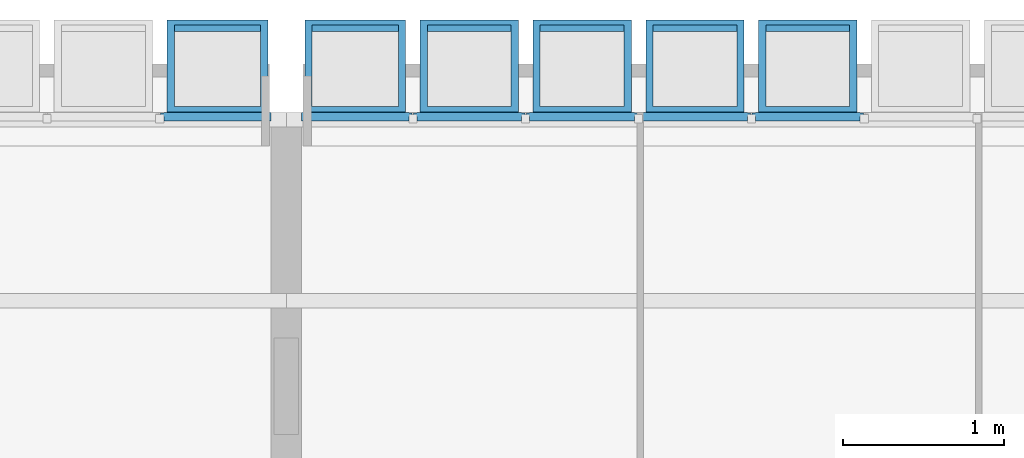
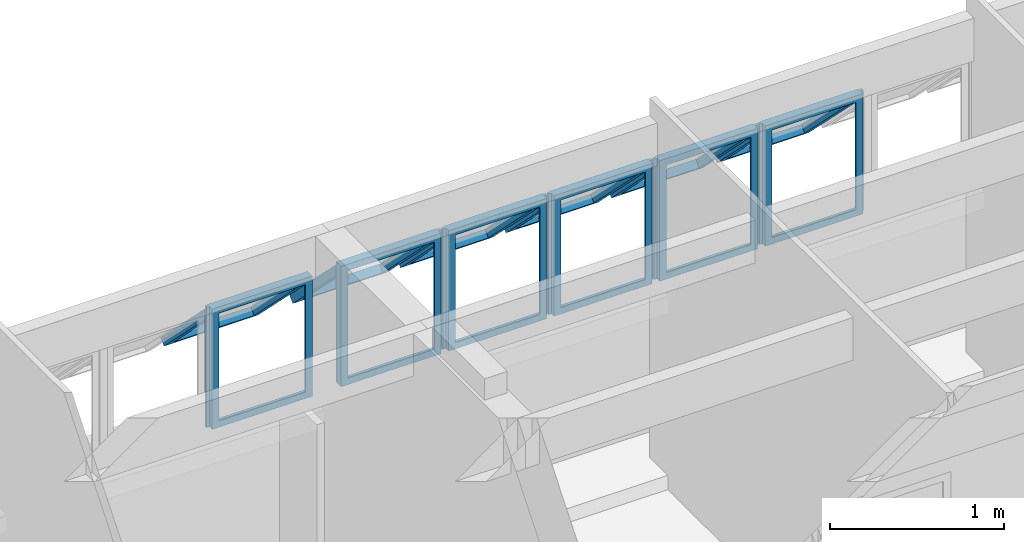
# One storey, part 34 of 38: 6 building element parts, 8 elements without a shape of their own.
"""IFC2X3 building model written with IfcOpenShell, lengths in millimetres."""

from ifc_helpers import new_model, entity, si_unit, converted_unit, derived_unit, money_unit, direction, frame, origin_with_axes, place, context, subcontext, project, spatial, faceted_brep, source, transform, mapped, material, type_object, element, aggregate, save


model = new_model("IFC2X3")

# Units and contexts
model_context = context("Model", 3, precision=0.01, world=origin_with_axes(), true_north=direction((0.0, 1.0)))
body_context = subcontext(model_context, "Body", "Model", "MODEL_VIEW")
ifc_project = project(units=[si_unit("LENGTHUNIT", "METRE", prefix="MILLI"), si_unit("AREAUNIT", "SQUARE_METRE"), si_unit("VOLUMEUNIT", "CUBIC_METRE"), converted_unit("PLANEANGLEUNIT", "DEGREE", entity("IfcPlaneAngleMeasure", 0.0174532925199), si_unit("PLANEANGLEUNIT", "RADIAN"), dimensions=[0, 0, 0, 0, 0, 0, 0]), money_unit("USD"), converted_unit("TIMEUNIT", "Year", entity("IfcTimeMeasure", 31556926.0), si_unit("TIMEUNIT", "SECOND"), dimensions=[0, 0, 1, 0, 0, 0, 0]), si_unit("MASSUNIT", "GRAM", prefix="KILO"), si_unit("THERMODYNAMICTEMPERATUREUNIT", "DEGREE_CELSIUS"), si_unit("LUMINOUSINTENSITYUNIT", "LUMEN"), si_unit("ENERGYUNIT", "JOULE", prefix="MEGA"), derived_unit("THERMALCONDUCTANCEUNIT", [(si_unit("POWERUNIT", "WATT"), 1), (si_unit("LENGTHUNIT", "METRE"), -1), (si_unit("THERMODYNAMICTEMPERATUREUNIT", "KELVIN"), -1)]), derived_unit("SPECIFICHEATCAPACITYUNIT", [(si_unit("ENERGYUNIT", "JOULE"), 1), (si_unit("MASSUNIT", "GRAM", prefix="KILO"), -1), (si_unit("THERMODYNAMICTEMPERATUREUNIT", "KELVIN"), -1)]), derived_unit("MASSDENSITYUNIT", [(si_unit("MASSUNIT", "GRAM", prefix="KILO"), 1), (si_unit("VOLUMEUNIT", "CUBIC_METRE"), -1)])], contexts=[model_context])

# Site, building, storey
site_placement = place(None, origin_with_axes())
site = spatial("IfcSite", under=ifc_project, at=site_placement, Name="Local", CompositionType="ELEMENT")
building_placement = place(site_placement, origin_with_axes())
building = spatial("IfcBuilding", under=site, at=building_placement, Name="Construção", CompositionType="ELEMENT")
storey_placement = place(building_placement, frame((0.0, 0.0, 2650.0), z_axis=(0.0, 0.0, 1.0), x_axis=(1.0, 0.0, 0.0)))
storey = spatial("IfcBuildingStorey", under=building, at=storey_placement, Name="Segundo Pavimento", CompositionType="ELEMENT", Elevation=2650.0)

# Window, plates, building element parts
window_style = type_object("IfcWindowStyle", Name="Tipo de Parede Cortina", ConstructionType="NOTDEFINED", OperationType="NOTDEFINED", ParameterTakesPrecedence=False, Sizeable=False)
window_1_placement = place(storey_placement, frame((8520.0, 25844.9790225, 1355.02054151), z_axis=(0.0, 0.0, 1.0), x_axis=(1.0, 0.0, 0.0)))
window_1 = element("IfcWindow", 1, at=window_1_placement, inside=storey, type_object=window_style, Name="APTO8-JANELA-001")
plate_type_1 = type_object("IfcPlateType", Name="Painel Principal 690 x 845 x 20", PredefinedType="CURTAIN_PANEL")
plate_1_placement = place(window_1_placement, frame((0.0, 0.0, 422.499945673), z_axis=(0.0, 0.0, 1.0), x_axis=(1.0, 0.0, 0.0)))
plate_1 = element("IfcPlate", 2, at=plate_1_placement, type_object=plate_type_1, Name="APTO8-Painel-Prin-030")
ifc_material = material(Name="Alumínio")
shared_shape_1 = source(origin_with_axes(), body_context, "Body", "Brep", [
    faceted_brep([(25.0000036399, 0.0, -40.0), (674.999997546, 0.0, -40.0), (674.999997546, 0.0, -35.0), (25.0000036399, 0.0, -35.0), (70.0000036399, 45.0, -40.0), (629.999997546, 45.0, -40.0), (629.999997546, 45.0, -35.0), (70.0000036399, 45.0, -35.0)], [[[0, 1, 2, 3]], [[0, 4, 5, 1]], [[1, 5, 6, 2]], [[3, 2, 6, 7]], [[4, 0, 3, 7]], [[5, 4, 7, 6]]]),
    faceted_brep([(674.999997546, 0.0, -40.0), (674.999997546, 844.999891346, -40.0), (674.999997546, 844.999891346, -35.0), (674.999997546, 0.0, -35.0), (629.999997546, 45.0, -40.0), (629.999997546, 799.999891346, -40.0), (629.999997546, 799.999891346, -35.0), (629.999997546, 45.0, -35.0)], [[[0, 1, 2, 3]], [[0, 4, 5, 1]], [[1, 5, 6, 2]], [[3, 2, 6, 7]], [[4, 0, 3, 7]], [[5, 4, 7, 6]]]),
    faceted_brep([(25.0000036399, 844.999891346, -40.0), (70.0000036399, 799.999891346, -40.0), (70.0000036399, 799.999891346, -35.0), (25.0000036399, 844.999891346, -35.0), (674.999997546, 844.999891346, -40.0), (629.999997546, 799.999891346, -40.0), (629.999997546, 799.999891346, -35.0), (674.999997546, 844.999891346, -35.0)], [[[0, 1, 2, 3]], [[0, 4, 5, 1]], [[1, 5, 6, 2]], [[3, 2, 6, 7]], [[4, 0, 3, 7]], [[5, 4, 7, 6]]]),
    faceted_brep([(25.0000036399, 0.0, -40.0), (70.0000036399, 45.0, -40.0), (70.0000036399, 45.0, -35.0), (25.0000036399, 0.0, -35.0), (25.0000036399, 844.999891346, -40.0), (70.0000036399, 799.999891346, -40.0), (70.0000036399, 799.999891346, -35.0), (25.0000036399, 844.999891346, -35.0)], [[[0, 1, 2, 3]], [[0, 4, 5, 1]], [[1, 5, 6, 2]], [[3, 2, 6, 7]], [[4, 0, 3, 7]], [[5, 4, 7, 6]]]),
    faceted_brep([(25.0000036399, 0.0, -35.0), (674.999997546, 0.0, -35.0), (674.999997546, 0.0, 15.0), (25.0000036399, 0.0, 15.0), (45.0000036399, 20.0, -35.0), (654.999997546, 20.0, -35.0), (654.999997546, 20.0, 15.0), (45.0000036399, 20.0, 15.0)], [[[0, 1, 2, 3]], [[0, 4, 5, 1]], [[1, 5, 6, 2]], [[3, 2, 6, 7]], [[4, 0, 3, 7]], [[5, 4, 7, 6]]]),
    faceted_brep([(674.999997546, 0.0, -35.0), (674.999997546, 844.999891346, -35.0), (674.999997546, 844.999891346, 15.0), (674.999997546, 0.0, 15.0), (654.999997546, 20.0, -35.0), (654.999997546, 824.999891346, -35.0), (654.999997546, 824.999891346, 15.0), (654.999997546, 20.0, 15.0)], [[[0, 1, 2, 3]], [[0, 4, 5, 1]], [[1, 5, 6, 2]], [[3, 2, 6, 7]], [[4, 0, 3, 7]], [[5, 4, 7, 6]]]),
    faceted_brep([(25.0000036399, 844.999891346, -35.0), (45.0000036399, 824.999891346, -35.0), (45.0000036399, 824.999891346, 15.0), (25.0000036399, 844.999891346, 15.0), (674.999997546, 844.999891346, -35.0), (654.999997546, 824.999891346, -35.0), (654.999997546, 824.999891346, 15.0), (674.999997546, 844.999891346, 15.0)], [[[0, 1, 2, 3]], [[0, 4, 5, 1]], [[1, 5, 6, 2]], [[3, 2, 6, 7]], [[4, 0, 3, 7]], [[5, 4, 7, 6]]]),
    faceted_brep([(25.0000036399, 0.0, -35.0), (45.0000036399, 20.0, -35.0), (45.0000036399, 20.0, 15.0), (25.0000036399, 0.0, 15.0), (25.0000036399, 844.999891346, -35.0), (45.0000036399, 824.999891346, -35.0), (45.0000036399, 824.999891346, 15.0), (25.0000036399, 844.999891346, 15.0)], [[[0, 1, 2, 3]], [[0, 4, 5, 1]], [[1, 5, 6, 2]], [[3, 2, 6, 7]], [[4, 0, 3, 7]], [[5, 4, 7, 6]]]),
    faceted_brep([(694.999995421, 0.0, -10.0), (694.999995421, 844.999891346, -10.0), (694.999995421, 844.999891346, 10.0), (694.999995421, 0.0, 10.0), (674.999997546, 0.0, -10.0), (674.999997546, 844.999891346, -10.0), (674.999997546, 844.999891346, 10.0), (674.999997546, 0.0, 10.0)], [[[0, 1, 2, 3]], [[0, 4, 5, 1]], [[1, 5, 6, 2]], [[3, 2, 6, 7]], [[4, 0, 3, 7]], [[5, 4, 7, 6]]]),
    faceted_brep([(5.00000576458, 844.999891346, -10.0), (5.00000576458, 0.0, -10.0), (5.00000576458, 0.0, 10.0), (5.00000576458, 844.999891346, 10.0), (25.0000036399, 844.999891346, -10.0), (25.0000036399, 0.0, -10.0), (25.0000036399, 0.0, 10.0), (25.0000036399, 844.999891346, 10.0)], [[[0, 1, 2, 3]], [[0, 4, 5, 1]], [[1, 5, 6, 2]], [[3, 2, 6, 7]], [[4, 0, 3, 7]], [[5, 4, 7, 6]]]),
    faceted_brep([(90.0000036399, 252.243475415, 517.045737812), (90.0000036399, 757.824747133, 11.4644660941), (90.0000036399, 796.715620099, 50.3553390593), (90.0000036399, 291.13434838, 555.936610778), (45.0000036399, 220.423670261, 548.865542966), (45.0000036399, 789.644552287, -20.3553390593), (45.0000036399, 828.535425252, 18.5355339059), (45.0000036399, 259.314543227, 587.756415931)], [[[0, 1, 2, 3]], [[0, 4, 5, 1]], [[1, 5, 6, 2]], [[3, 2, 6, 7]], [[4, 0, 3, 7]], [[5, 4, 7, 6]]]),
    faceted_brep([(654.999997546, 220.423670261, 548.865542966), (654.999997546, 789.644552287, -20.3553390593), (654.999997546, 828.535425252, 18.5355339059), (654.999997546, 259.314543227, 587.756415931), (609.999997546, 252.243475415, 517.045737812), (609.999997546, 757.824747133, 11.4644660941), (609.999997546, 796.715620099, 50.3553390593), (609.999997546, 291.13434838, 555.936610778)], [[[0, 1, 2, 3]], [[0, 4, 5, 1]], [[1, 5, 6, 2]], [[3, 2, 6, 7]], [[4, 0, 3, 7]], [[5, 4, 7, 6]]]),
    faceted_brep([(654.999997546, 220.423670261, 548.865542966), (609.999997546, 252.243475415, 517.045737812), (609.999997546, 291.13434838, 555.936610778), (654.999997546, 259.314543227, 587.756415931), (45.0000036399, 220.423670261, 548.865542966), (90.0000036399, 252.243475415, 517.045737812), (90.0000036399, 291.13434838, 555.936610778), (45.0000036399, 259.314543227, 587.756415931)], [[[0, 1, 2, 3]], [[0, 4, 5, 1]], [[1, 5, 6, 2]], [[3, 2, 6, 7]], [[4, 0, 3, 7]], [[5, 4, 7, 6]]]),
    faceted_brep([(45.0000036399, 789.644552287, -20.3553390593), (90.0000036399, 757.824747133, 11.4644660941), (90.0000036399, 796.715620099, 50.3553390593), (45.0000036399, 828.535425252, 18.5355339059), (654.999997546, 789.644552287, -20.3553390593), (609.999997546, 757.824747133, 11.4644660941), (609.999997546, 796.715620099, 50.3553390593), (654.999997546, 828.535425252, 18.5355339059)], [[[0, 1, 2, 3]], [[0, 4, 5, 1]], [[1, 5, 6, 2]], [[3, 2, 6, 7]], [[4, 0, 3, 7]], [[5, 4, 7, 6]]]),
])
building_element_part_1_placement = place(plate_1_placement, origin_with_axes())
building_element_part_1 = element("IfcBuildingElementPart", 3, at=building_element_part_1_placement, material=ifc_material, Name="Alumínio", context=body_context, shape_type="MappedRepresentation", body=[
    mapped(shared_shape_1, transform((350.0, 0.0, -422.499945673), x_axis=(-1.0, 0.0, 0.0), y_axis=(0.0, 0.0, 1.0), z_axis=(0.0, 1.0, 0.0))),
])
aggregate(plate_1, [building_element_part_1])
plate_2_placement = place(window_1_placement, frame((700.0, 0.0, 422.499945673), z_axis=(0.0, 0.0, 1.0), x_axis=(1.0, 0.0, 0.0)))
plate_2 = element("IfcPlate", 4, at=plate_2_placement, type_object=plate_type_1, Name="APTO8-Painel-Prin-020")
building_element_part_2_placement = place(plate_2_placement, origin_with_axes())
building_element_part_2 = element("IfcBuildingElementPart", 5, at=building_element_part_2_placement, material=ifc_material, Name="Alumínio", context=body_context, shape_type="MappedRepresentation", body=[
    mapped(shared_shape_1, transform((350.0, 0.0, -422.499945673), x_axis=(-1.0, 0.0, 0.0), y_axis=(0.0, 0.0, 1.0), z_axis=(0.0, 1.0, 0.0))),
])
aggregate(plate_2, [building_element_part_2])
plate_3_placement = place(window_1_placement, frame((1400.0, 0.0, 422.499945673), z_axis=(0.0, 0.0, 1.0), x_axis=(1.0, 0.0, 0.0)))
plate_3 = element("IfcPlate", 6, at=plate_3_placement, type_object=plate_type_1, Name="APTO8-Painel-Prin-029")
building_element_part_3_placement = place(plate_3_placement, origin_with_axes())
building_element_part_3 = element("IfcBuildingElementPart", 7, at=building_element_part_3_placement, material=ifc_material, Name="Alumínio", context=body_context, shape_type="MappedRepresentation", body=[
    mapped(shared_shape_1, transform((350.0, 0.0, -422.499945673), x_axis=(-1.0, 0.0, 0.0), y_axis=(0.0, 0.0, 1.0), z_axis=(0.0, 1.0, 0.0))),
])
aggregate(plate_3, [building_element_part_3])
plate_type_2 = type_object("IfcPlateType", Name="Painel Principal 685 x 845 x 20", PredefinedType="CURTAIN_PANEL")
plate_4_placement = place(window_1_placement, frame((-695.000037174, 0.0, 422.499953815), z_axis=(0.0, 0.0, 1.0), x_axis=(1.0, 0.0, 0.0)))
plate_4 = element("IfcPlate", 8, at=plate_4_placement, type_object=plate_type_2, Name="APTO8-Painel-Prin-031")
shared_shape_2 = source(origin_with_axes(), body_context, "Body", "Brep", [
    faceted_brep([(25.0000046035, 0.0, -40.0), (690.000079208, 0.0, -40.0), (690.000079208, 0.0, -35.0), (25.0000046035, 0.0, -35.0), (70.0000046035, 45.0, -40.0), (645.000079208, 45.0, -40.0), (645.000079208, 45.0, -35.0), (70.0000046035, 45.0, -35.0)], [[[0, 1, 2, 3]], [[0, 4, 5, 1]], [[1, 5, 6, 2]], [[3, 2, 6, 7]], [[4, 0, 3, 7]], [[5, 4, 7, 6]]]),
    faceted_brep([(690.000079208, 0.0, -40.0), (690.000079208, 844.999923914, -40.0), (690.000079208, 844.999923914, -35.0), (690.000079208, 0.0, -35.0), (645.000079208, 45.0, -40.0), (645.000079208, 799.999923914, -40.0), (645.000079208, 799.999923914, -35.0), (645.000079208, 45.0, -35.0)], [[[0, 1, 2, 3]], [[0, 4, 5, 1]], [[1, 5, 6, 2]], [[3, 2, 6, 7]], [[4, 0, 3, 7]], [[5, 4, 7, 6]]]),
    faceted_brep([(25.0000046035, 844.999923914, -40.0), (70.0000046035, 799.999923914, -40.0), (70.0000046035, 799.999923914, -35.0), (25.0000046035, 844.999923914, -35.0), (690.000079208, 844.999923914, -40.0), (645.000079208, 799.999923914, -40.0), (645.000079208, 799.999923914, -35.0), (690.000079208, 844.999923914, -35.0)], [[[0, 1, 2, 3]], [[0, 4, 5, 1]], [[1, 5, 6, 2]], [[3, 2, 6, 7]], [[4, 0, 3, 7]], [[5, 4, 7, 6]]]),
    faceted_brep([(25.0000046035, 0.0, -40.0), (70.0000046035, 45.0, -40.0), (70.0000046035, 45.0, -35.0), (25.0000046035, 0.0, -35.0), (25.0000046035, 844.999923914, -40.0), (70.0000046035, 799.999923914, -40.0), (70.0000046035, 799.999923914, -35.0), (25.0000046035, 844.999923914, -35.0)], [[[0, 1, 2, 3]], [[0, 4, 5, 1]], [[1, 5, 6, 2]], [[3, 2, 6, 7]], [[4, 0, 3, 7]], [[5, 4, 7, 6]]]),
    faceted_brep([(25.0000046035, 0.0, -35.0), (690.000079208, 0.0, -35.0), (690.000079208, 0.0, 15.0), (25.0000046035, 0.0, 15.0), (45.0000046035, 20.0, -35.0), (670.000079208, 20.0, -35.0), (670.000079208, 20.0, 15.0), (45.0000046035, 20.0, 15.0)], [[[0, 1, 2, 3]], [[0, 4, 5, 1]], [[1, 5, 6, 2]], [[3, 2, 6, 7]], [[4, 0, 3, 7]], [[5, 4, 7, 6]]]),
    faceted_brep([(690.000079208, 0.0, -35.0), (690.000079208, 844.999923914, -35.0), (690.000079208, 844.999923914, 15.0), (690.000079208, 0.0, 15.0), (670.000079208, 20.0, -35.0), (670.000079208, 824.999923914, -35.0), (670.000079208, 824.999923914, 15.0), (670.000079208, 20.0, 15.0)], [[[0, 1, 2, 3]], [[0, 4, 5, 1]], [[1, 5, 6, 2]], [[3, 2, 6, 7]], [[4, 0, 3, 7]], [[5, 4, 7, 6]]]),
    faceted_brep([(25.0000046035, 844.999923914, -35.0), (45.0000046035, 824.999923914, -35.0), (45.0000046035, 824.999923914, 15.0), (25.0000046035, 844.999923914, 15.0), (690.000079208, 844.999923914, -35.0), (670.000079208, 824.999923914, -35.0), (670.000079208, 824.999923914, 15.0), (690.000079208, 844.999923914, 15.0)], [[[0, 1, 2, 3]], [[0, 4, 5, 1]], [[1, 5, 6, 2]], [[3, 2, 6, 7]], [[4, 0, 3, 7]], [[5, 4, 7, 6]]]),
    faceted_brep([(25.0000046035, 0.0, -35.0), (45.0000046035, 20.0, -35.0), (45.0000046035, 20.0, 15.0), (25.0000046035, 0.0, 15.0), (25.0000046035, 844.999923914, -35.0), (45.0000046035, 824.999923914, -35.0), (45.0000046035, 824.999923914, 15.0), (25.0000046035, 844.999923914, 15.0)], [[[0, 1, 2, 3]], [[0, 4, 5, 1]], [[1, 5, 6, 2]], [[3, 2, 6, 7]], [[4, 0, 3, 7]], [[5, 4, 7, 6]]]),
    faceted_brep([(5.00000595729, 844.999923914, -10.0), (5.00000595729, 0.0, -10.0), (5.00000595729, 0.0, 10.0), (5.00000595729, 844.999923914, 10.0), (25.0000046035, 844.999923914, -10.0), (25.0000046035, 0.0, -10.0), (25.0000046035, 0.0, 10.0), (25.0000046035, 844.999923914, 10.0)], [[[0, 1, 2, 3]], [[0, 4, 5, 1]], [[1, 5, 6, 2]], [[3, 2, 6, 7]], [[4, 0, 3, 7]], [[5, 4, 7, 6]]]),
    faceted_brep([(90.0000046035, 252.243484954, 517.045760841), (90.0000046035, 757.824779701, 11.4644660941), (90.0000046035, 796.715652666, 50.3553390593), (90.0000046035, 291.134357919, 555.936633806), (45.0000046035, 220.4236798, 548.865565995), (45.0000046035, 789.644584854, -20.3553390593), (45.0000046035, 828.535457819, 18.5355339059), (45.0000046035, 259.314552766, 587.75643896)], [[[0, 1, 2, 3]], [[0, 4, 5, 1]], [[1, 5, 6, 2]], [[3, 2, 6, 7]], [[4, 0, 3, 7]], [[5, 4, 7, 6]]]),
    faceted_brep([(670.000079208, 220.4236798, 548.865565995), (670.000079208, 789.644584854, -20.3553390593), (670.000079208, 828.535457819, 18.5355339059), (670.000079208, 259.314552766, 587.75643896), (625.000079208, 252.243484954, 517.045760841), (625.000079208, 757.824779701, 11.4644660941), (625.000079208, 796.715652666, 50.3553390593), (625.000079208, 291.134357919, 555.936633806)], [[[0, 1, 2, 3]], [[0, 4, 5, 1]], [[1, 5, 6, 2]], [[3, 2, 6, 7]], [[4, 0, 3, 7]], [[5, 4, 7, 6]]]),
    faceted_brep([(670.000079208, 220.4236798, 548.865565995), (625.000079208, 252.243484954, 517.045760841), (625.000079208, 291.134357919, 555.936633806), (670.000079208, 259.314552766, 587.75643896), (45.0000046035, 220.4236798, 548.865565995), (90.0000046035, 252.243484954, 517.045760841), (90.0000046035, 291.134357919, 555.936633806), (45.0000046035, 259.314552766, 587.75643896)], [[[0, 1, 2, 3]], [[0, 4, 5, 1]], [[1, 5, 6, 2]], [[3, 2, 6, 7]], [[4, 0, 3, 7]], [[5, 4, 7, 6]]]),
    faceted_brep([(45.0000046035, 789.644584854, -20.3553390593), (90.0000046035, 757.824779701, 11.4644660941), (90.0000046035, 796.715652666, 50.3553390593), (45.0000046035, 828.535457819, 18.5355339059), (670.000079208, 789.644584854, -20.3553390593), (625.000079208, 757.824779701, 11.4644660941), (625.000079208, 796.715652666, 50.3553390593), (670.000079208, 828.535457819, 18.5355339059)], [[[0, 1, 2, 3]], [[0, 4, 5, 1]], [[1, 5, 6, 2]], [[3, 2, 6, 7]], [[4, 0, 3, 7]], [[5, 4, 7, 6]]]),
])
building_element_part_4_placement = place(plate_4_placement, origin_with_axes())
building_element_part_4 = element("IfcBuildingElementPart", 9, at=building_element_part_4_placement, material=ifc_material, Name="Alumínio", context=body_context, shape_type="MappedRepresentation", body=[
    mapped(shared_shape_2, transform((345.000037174, 0.0, -422.499953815), x_axis=(-1.0, 0.0, 0.0), y_axis=(0.0, 0.0, 1.0), z_axis=(0.0, 1.0, 0.0))),
])
aggregate(plate_4, [building_element_part_4])
plate_5_placement = place(window_1_placement, frame((2100.0, 0.0, 422.499945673), z_axis=(0.0, 0.0, 1.0), x_axis=(1.0, 0.0, 0.0)))
plate_5 = element("IfcPlate", 10, at=plate_5_placement, type_object=plate_type_1, Name="APTO8-Painel-Prin-025")
aggregate(window_1, [plate_1, plate_4, plate_5, plate_2, plate_3])
shared_shape_3 = source(origin_with_axes(), body_context, "Body", "Brep", [
    faceted_brep([(25.0000036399, 0.0, -40.0), (674.999997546, 0.0, -40.0), (674.999997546, 0.0, -35.0), (25.0000036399, 0.0, -35.0), (70.0000036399, 45.0, -40.0), (629.999997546, 45.0, -40.0), (629.999997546, 45.0, -35.0), (70.0000036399, 45.0, -35.0)], [[[0, 1, 2, 3]], [[0, 4, 5, 1]], [[1, 5, 6, 2]], [[3, 2, 6, 7]], [[4, 0, 3, 7]], [[5, 4, 7, 6]]]),
    faceted_brep([(674.999997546, 0.0, -40.0), (674.999997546, 844.999891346, -40.0), (674.999997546, 844.999891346, -35.0), (674.999997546, 0.0, -35.0), (629.999997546, 45.0, -40.0), (629.999997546, 799.999891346, -40.0), (629.999997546, 799.999891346, -35.0), (629.999997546, 45.0, -35.0)], [[[0, 1, 2, 3]], [[0, 4, 5, 1]], [[1, 5, 6, 2]], [[3, 2, 6, 7]], [[4, 0, 3, 7]], [[5, 4, 7, 6]]]),
    faceted_brep([(25.0000036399, 844.999891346, -40.0), (70.0000036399, 799.999891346, -40.0), (70.0000036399, 799.999891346, -35.0), (25.0000036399, 844.999891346, -35.0), (674.999997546, 844.999891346, -40.0), (629.999997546, 799.999891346, -40.0), (629.999997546, 799.999891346, -35.0), (674.999997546, 844.999891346, -35.0)], [[[0, 1, 2, 3]], [[0, 4, 5, 1]], [[1, 5, 6, 2]], [[3, 2, 6, 7]], [[4, 0, 3, 7]], [[5, 4, 7, 6]]]),
    faceted_brep([(25.0000036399, 0.0, -40.0), (70.0000036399, 45.0, -40.0), (70.0000036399, 45.0, -35.0), (25.0000036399, 0.0, -35.0), (25.0000036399, 844.999891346, -40.0), (70.0000036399, 799.999891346, -40.0), (70.0000036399, 799.999891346, -35.0), (25.0000036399, 844.999891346, -35.0)], [[[0, 1, 2, 3]], [[0, 4, 5, 1]], [[1, 5, 6, 2]], [[3, 2, 6, 7]], [[4, 0, 3, 7]], [[5, 4, 7, 6]]]),
    faceted_brep([(25.0000036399, 0.0, -35.0), (674.999997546, 0.0, -35.0), (674.999997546, 0.0, 15.0), (25.0000036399, 0.0, 15.0), (45.0000036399, 20.0, -35.0), (654.999997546, 20.0, -35.0), (654.999997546, 20.0, 15.0), (45.0000036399, 20.0, 15.0)], [[[0, 1, 2, 3]], [[0, 4, 5, 1]], [[1, 5, 6, 2]], [[3, 2, 6, 7]], [[4, 0, 3, 7]], [[5, 4, 7, 6]]]),
    faceted_brep([(674.999997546, 0.0, -35.0), (674.999997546, 844.999891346, -35.0), (674.999997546, 844.999891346, 15.0), (674.999997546, 0.0, 15.0), (654.999997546, 20.0, -35.0), (654.999997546, 824.999891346, -35.0), (654.999997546, 824.999891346, 15.0), (654.999997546, 20.0, 15.0)], [[[0, 1, 2, 3]], [[0, 4, 5, 1]], [[1, 5, 6, 2]], [[3, 2, 6, 7]], [[4, 0, 3, 7]], [[5, 4, 7, 6]]]),
    faceted_brep([(25.0000036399, 844.999891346, -35.0), (45.0000036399, 824.999891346, -35.0), (45.0000036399, 824.999891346, 15.0), (25.0000036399, 844.999891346, 15.0), (674.999997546, 844.999891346, -35.0), (654.999997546, 824.999891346, -35.0), (654.999997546, 824.999891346, 15.0), (674.999997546, 844.999891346, 15.0)], [[[0, 1, 2, 3]], [[0, 4, 5, 1]], [[1, 5, 6, 2]], [[3, 2, 6, 7]], [[4, 0, 3, 7]], [[5, 4, 7, 6]]]),
    faceted_brep([(25.0000036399, 0.0, -35.0), (45.0000036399, 20.0, -35.0), (45.0000036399, 20.0, 15.0), (25.0000036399, 0.0, 15.0), (25.0000036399, 844.999891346, -35.0), (45.0000036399, 824.999891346, -35.0), (45.0000036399, 824.999891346, 15.0), (25.0000036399, 844.999891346, 15.0)], [[[0, 1, 2, 3]], [[0, 4, 5, 1]], [[1, 5, 6, 2]], [[3, 2, 6, 7]], [[4, 0, 3, 7]], [[5, 4, 7, 6]]]),
    faceted_brep([(694.999995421, 0.0, -10.0), (694.999995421, 844.999891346, -10.0), (694.999995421, 844.999891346, 10.0), (694.999995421, 0.0, 10.0), (674.999997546, 0.0, -10.0), (674.999997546, 844.999891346, -10.0), (674.999997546, 844.999891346, 10.0), (674.999997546, 0.0, 10.0)], [[[0, 1, 2, 3]], [[0, 4, 5, 1]], [[1, 5, 6, 2]], [[3, 2, 6, 7]], [[4, 0, 3, 7]], [[5, 4, 7, 6]]]),
    faceted_brep([(5.00000576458, 844.999891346, -10.0), (5.00000576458, 0.0, -10.0), (5.00000576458, 0.0, 10.0), (5.00000576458, 844.999891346, 10.0), (25.0000036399, 844.999891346, -10.0), (25.0000036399, 0.0, -10.0), (25.0000036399, 0.0, 10.0), (25.0000036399, 844.999891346, 10.0)], [[[0, 1, 2, 3]], [[0, 4, 5, 1]], [[1, 5, 6, 2]], [[3, 2, 6, 7]], [[4, 0, 3, 7]], [[5, 4, 7, 6]]]),
    faceted_brep([(90.0000036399, 252.243475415, 517.045737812), (90.0000036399, 757.824747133, 11.4644660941), (90.0000036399, 796.715620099, 50.3553390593), (90.0000036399, 291.13434838, 555.936610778), (45.0000036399, 220.423670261, 548.865542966), (45.0000036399, 789.644552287, -20.3553390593), (45.0000036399, 828.535425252, 18.5355339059), (45.0000036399, 259.314543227, 587.756415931)], [[[0, 1, 2, 3]], [[0, 4, 5, 1]], [[1, 5, 6, 2]], [[3, 2, 6, 7]], [[4, 0, 3, 7]], [[5, 4, 7, 6]]]),
    faceted_brep([(654.999997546, 220.423670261, 548.865542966), (654.999997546, 789.644552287, -20.3553390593), (654.999997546, 828.535425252, 18.5355339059), (654.999997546, 259.314543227, 587.756415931), (609.999997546, 252.243475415, 517.045737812), (609.999997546, 757.824747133, 11.4644660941), (609.999997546, 796.715620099, 50.3553390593), (609.999997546, 291.13434838, 555.936610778)], [[[0, 1, 2, 3]], [[0, 4, 5, 1]], [[1, 5, 6, 2]], [[3, 2, 6, 7]], [[4, 0, 3, 7]], [[5, 4, 7, 6]]]),
    faceted_brep([(654.999997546, 220.423670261, 548.865542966), (609.999997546, 252.243475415, 517.045737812), (609.999997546, 291.13434838, 555.936610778), (654.999997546, 259.314543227, 587.756415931), (45.0000036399, 220.423670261, 548.865542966), (90.0000036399, 252.243475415, 517.045737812), (90.0000036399, 291.13434838, 555.936610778), (45.0000036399, 259.314543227, 587.756415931)], [[[0, 1, 2, 3]], [[0, 4, 5, 1]], [[1, 5, 6, 2]], [[3, 2, 6, 7]], [[4, 0, 3, 7]], [[5, 4, 7, 6]]]),
    faceted_brep([(45.0000036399, 789.644552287, -20.3553390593), (90.0000036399, 757.824747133, 11.4644660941), (90.0000036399, 796.715620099, 50.3553390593), (45.0000036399, 828.535425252, 18.5355339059), (654.999997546, 789.644552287, -20.3553390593), (609.999997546, 757.824747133, 11.4644660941), (609.999997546, 796.715620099, 50.3553390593), (654.999997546, 828.535425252, 18.5355339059)], [[[0, 1, 2, 3]], [[0, 4, 5, 1]], [[1, 5, 6, 2]], [[3, 2, 6, 7]], [[4, 0, 3, 7]], [[5, 4, 7, 6]]]),
])
building_element_part_5_placement = place(plate_5_placement, origin_with_axes())
building_element_part_5 = element("IfcBuildingElementPart", 11, at=building_element_part_5_placement, material=ifc_material, Name="Alumínio", context=body_context, shape_type="MappedRepresentation", body=[
    mapped(shared_shape_3, transform((350.0, 0.0, -422.499945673), x_axis=(-1.0, 0.0, 0.0), y_axis=(0.0, 0.0, 1.0), z_axis=(0.0, 1.0, 0.0))),
])
aggregate(plate_5, [building_element_part_5])

# Window, plate, building element part
window_2_placement = place(storey_placement, frame((6250.0, 25844.9790225, 1355.02054151), z_axis=(0.0, 0.0, 1.0), x_axis=(1.0, 0.0, 0.0)))
window_2 = element("IfcWindow", 12, at=window_2_placement, inside=storey, type_object=window_style, Name="APTO7-JANELA-001")
plate_6_placement = place(window_2_placement, frame((695.000037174, 0.0, 422.499953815), z_axis=(0.0, 0.0, 1.0), x_axis=(-1.0, 0.0, 0.0)))
plate_6 = element("IfcPlate", 13, at=plate_6_placement, type_object=plate_type_2, Name="APTO7-Painel-Prin-031")
aggregate(window_2, [plate_6])
shared_shape_4 = source(origin_with_axes(), body_context, "Body", "Brep", [
    faceted_brep([(-25.0000046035, 0.0, -40.0), (-25.0000046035, 0.0, -35.0), (-690.000079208, 0.0, -35.0), (-690.000079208, 0.0, -40.0), (-70.0000046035, 45.0, -40.0), (-70.0000046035, 45.0, -35.0), (-645.000079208, 45.0, -35.0), (-645.000079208, 45.0, -40.0)], [[[0, 1, 2, 3]], [[4, 5, 1, 0]], [[1, 5, 6, 2]], [[3, 2, 6, 7]], [[0, 3, 7, 4]], [[7, 6, 5, 4]]]),
    faceted_brep([(-690.000079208, 0.0, -40.0), (-690.000079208, 0.0, -35.0), (-690.000079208, 844.999923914, -35.0), (-690.000079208, 844.999923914, -40.0), (-645.000079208, 45.0, -40.0), (-645.000079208, 45.0, -35.0), (-645.000079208, 799.999923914, -35.0), (-645.000079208, 799.999923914, -40.0)], [[[0, 1, 2, 3]], [[4, 5, 1, 0]], [[1, 5, 6, 2]], [[3, 2, 6, 7]], [[0, 3, 7, 4]], [[7, 6, 5, 4]]]),
    faceted_brep([(-25.0000046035, 844.999923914, -40.0), (-25.0000046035, 844.999923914, -35.0), (-70.0000046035, 799.999923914, -35.0), (-70.0000046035, 799.999923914, -40.0), (-690.000079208, 844.999923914, -40.0), (-690.000079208, 844.999923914, -35.0), (-645.000079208, 799.999923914, -35.0), (-645.000079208, 799.999923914, -40.0)], [[[0, 1, 2, 3]], [[4, 5, 1, 0]], [[1, 5, 6, 2]], [[3, 2, 6, 7]], [[0, 3, 7, 4]], [[7, 6, 5, 4]]]),
    faceted_brep([(-25.0000046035, 0.0, -40.0), (-25.0000046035, 0.0, -35.0), (-70.0000046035, 45.0, -35.0), (-70.0000046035, 45.0, -40.0), (-25.0000046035, 844.999923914, -40.0), (-25.0000046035, 844.999923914, -35.0), (-70.0000046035, 799.999923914, -35.0), (-70.0000046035, 799.999923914, -40.0)], [[[0, 1, 2, 3]], [[4, 5, 1, 0]], [[1, 5, 6, 2]], [[3, 2, 6, 7]], [[0, 3, 7, 4]], [[7, 6, 5, 4]]]),
    faceted_brep([(-25.0000046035, 0.0, -35.0), (-25.0000046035, 0.0, 15.0), (-690.000079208, 0.0, 15.0), (-690.000079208, 0.0, -35.0), (-45.0000046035, 20.0, -35.0), (-45.0000046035, 20.0, 15.0), (-670.000079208, 20.0, 15.0), (-670.000079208, 20.0, -35.0)], [[[0, 1, 2, 3]], [[4, 5, 1, 0]], [[1, 5, 6, 2]], [[3, 2, 6, 7]], [[0, 3, 7, 4]], [[7, 6, 5, 4]]]),
    faceted_brep([(-690.000079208, 0.0, -35.0), (-690.000079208, 0.0, 15.0), (-690.000079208, 844.999923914, 15.0), (-690.000079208, 844.999923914, -35.0), (-670.000079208, 20.0, -35.0), (-670.000079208, 20.0, 15.0), (-670.000079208, 824.999923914, 15.0), (-670.000079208, 824.999923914, -35.0)], [[[0, 1, 2, 3]], [[4, 5, 1, 0]], [[1, 5, 6, 2]], [[3, 2, 6, 7]], [[0, 3, 7, 4]], [[7, 6, 5, 4]]]),
    faceted_brep([(-25.0000046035, 844.999923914, -35.0), (-25.0000046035, 844.999923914, 15.0), (-45.0000046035, 824.999923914, 15.0), (-45.0000046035, 824.999923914, -35.0), (-690.000079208, 844.999923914, -35.0), (-690.000079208, 844.999923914, 15.0), (-670.000079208, 824.999923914, 15.0), (-670.000079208, 824.999923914, -35.0)], [[[0, 1, 2, 3]], [[4, 5, 1, 0]], [[1, 5, 6, 2]], [[3, 2, 6, 7]], [[0, 3, 7, 4]], [[7, 6, 5, 4]]]),
    faceted_brep([(-25.0000046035, 0.0, -35.0), (-25.0000046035, 0.0, 15.0), (-45.0000046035, 20.0, 15.0), (-45.0000046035, 20.0, -35.0), (-25.0000046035, 844.999923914, -35.0), (-25.0000046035, 844.999923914, 15.0), (-45.0000046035, 824.999923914, 15.0), (-45.0000046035, 824.999923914, -35.0)], [[[0, 1, 2, 3]], [[4, 5, 1, 0]], [[1, 5, 6, 2]], [[3, 2, 6, 7]], [[0, 3, 7, 4]], [[7, 6, 5, 4]]]),
    faceted_brep([(-5.00000595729, 844.999923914, -10.0), (-5.00000595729, 844.999923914, 10.0), (-5.00000595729, 0.0, 10.0), (-5.00000595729, 0.0, -10.0), (-25.0000046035, 844.999923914, -10.0), (-25.0000046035, 844.999923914, 10.0), (-25.0000046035, 0.0, 10.0), (-25.0000046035, 0.0, -10.0)], [[[0, 1, 2, 3]], [[4, 5, 1, 0]], [[1, 5, 6, 2]], [[3, 2, 6, 7]], [[0, 3, 7, 4]], [[7, 6, 5, 4]]]),
    faceted_brep([(-90.0000046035, 252.243484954, 517.045760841), (-90.0000046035, 291.134357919, 555.936633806), (-90.0000046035, 796.715652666, 50.3553390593), (-90.0000046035, 757.824779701, 11.4644660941), (-45.0000046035, 220.4236798, 548.865565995), (-45.0000046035, 259.314552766, 587.75643896), (-45.0000046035, 828.535457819, 18.5355339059), (-45.0000046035, 789.644584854, -20.3553390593)], [[[0, 1, 2, 3]], [[4, 5, 1, 0]], [[1, 5, 6, 2]], [[3, 2, 6, 7]], [[0, 3, 7, 4]], [[7, 6, 5, 4]]]),
    faceted_brep([(-670.000079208, 220.4236798, 548.865565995), (-670.000079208, 259.314552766, 587.75643896), (-670.000079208, 828.535457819, 18.5355339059), (-670.000079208, 789.644584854, -20.3553390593), (-625.000079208, 252.243484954, 517.045760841), (-625.000079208, 291.134357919, 555.936633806), (-625.000079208, 796.715652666, 50.3553390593), (-625.000079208, 757.824779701, 11.4644660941)], [[[0, 1, 2, 3]], [[4, 5, 1, 0]], [[1, 5, 6, 2]], [[3, 2, 6, 7]], [[0, 3, 7, 4]], [[7, 6, 5, 4]]]),
    faceted_brep([(-670.000079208, 220.4236798, 548.865565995), (-670.000079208, 259.314552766, 587.75643896), (-625.000079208, 291.134357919, 555.936633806), (-625.000079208, 252.243484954, 517.045760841), (-45.0000046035, 220.4236798, 548.865565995), (-45.0000046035, 259.314552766, 587.75643896), (-90.0000046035, 291.134357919, 555.936633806), (-90.0000046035, 252.243484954, 517.045760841)], [[[0, 1, 2, 3]], [[4, 5, 1, 0]], [[1, 5, 6, 2]], [[3, 2, 6, 7]], [[0, 3, 7, 4]], [[7, 6, 5, 4]]]),
    faceted_brep([(-45.0000046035, 789.644584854, -20.3553390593), (-45.0000046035, 828.535457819, 18.5355339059), (-90.0000046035, 796.715652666, 50.3553390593), (-90.0000046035, 757.824779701, 11.4644660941), (-670.000079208, 789.644584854, -20.3553390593), (-670.000079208, 828.535457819, 18.5355339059), (-625.000079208, 796.715652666, 50.3553390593), (-625.000079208, 757.824779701, 11.4644660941)], [[[0, 1, 2, 3]], [[4, 5, 1, 0]], [[1, 5, 6, 2]], [[3, 2, 6, 7]], [[0, 3, 7, 4]], [[7, 6, 5, 4]]]),
])
building_element_part_6_placement = place(plate_6_placement, origin_with_axes())
building_element_part_6 = element("IfcBuildingElementPart", 14, at=building_element_part_6_placement, material=ifc_material, Name="Alumínio", context=body_context, shape_type="MappedRepresentation", body=[
    mapped(shared_shape_4, transform((345.000037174, 0.0, -422.499953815), x_axis=(1.0, 0.0, 0.0), y_axis=(0.0, 0.0, 1.0), z_axis=(0.0, -1.0, 0.0))),
])
aggregate(plate_6, [building_element_part_6])

save(model, "model.ifc")
